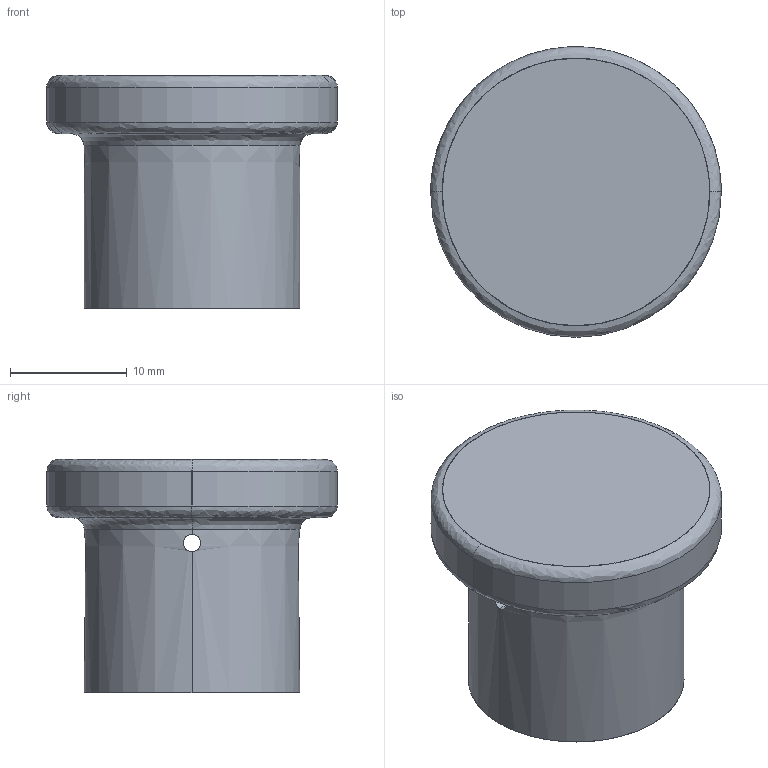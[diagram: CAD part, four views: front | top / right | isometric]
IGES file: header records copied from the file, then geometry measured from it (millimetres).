
Start section: SolidWorks IGES FILE using analytic representation for surfaces
Global section: file name: C:\SolidWorks Animator Folder\Animator Tutorial (Mark S) Folder\Clamp_End--system X.IGS; native system: SolidWorks 2001Plus by SolidWorks Corporation; preprocessor: Version 5.3; author: eleafquist; date: 020208.104831; units: millimetre
Bounding box: 24.92 x 24.92 x 20 mm (x, y, z)
Surface area: 2718.6 mm2 (no closed solid volume)
Topology: 0 solids, 0 shells, 20 faces, 336 edges, 336 vertices
Faces by surface type: revolution 10, bspline 10
